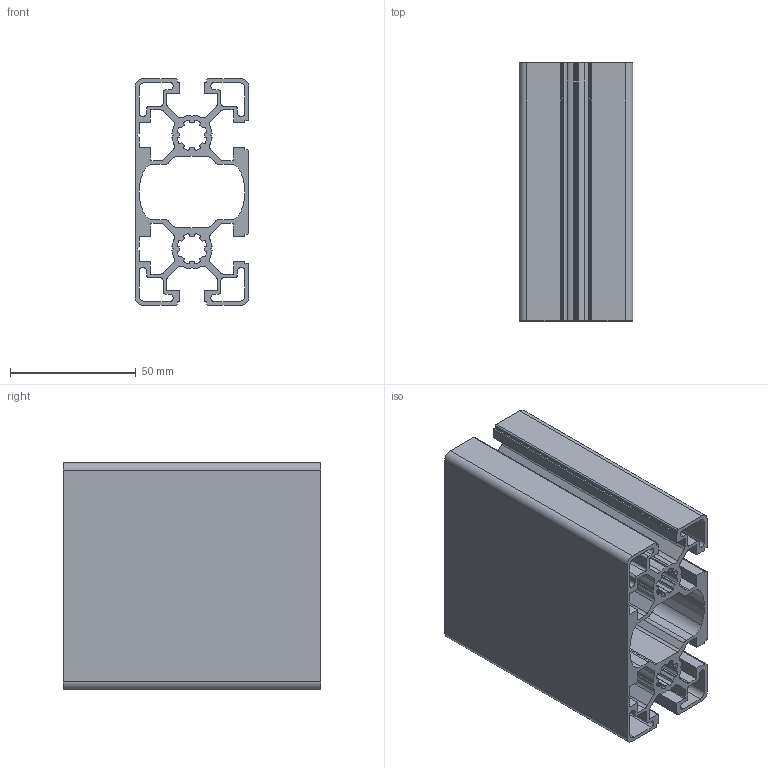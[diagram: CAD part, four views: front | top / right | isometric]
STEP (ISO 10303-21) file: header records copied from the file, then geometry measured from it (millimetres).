
FILE_DESCRIPTION( ( 'Unknown' ), '1' );
FILE_NAME( 'Z:/DB/Serie1/8004-B10-4590L4ND-2017-07-24/Vorlagen/B10-4590L4ND.stp', 'Unknown', ( 'Unknown' ), ( 'Unknown' ), 'XStep 1.0', 'Unknown', ' ' );
FILE_SCHEMA( ( 'automotive_design' ) );
Length unit declared in the file: millimetre
Products named in the file (1): 1
Bounding box: 45 x 102.33 x 90 mm (x, y, z)
Volume: 112657 mm3; surface area: 102571.5 mm2
Topology: 1 solids, 1 shells, 402 faces, 1200 edges, 800 vertices
Faces by surface type: cylinder 242, plane 160
Entity records: 16976 total; most frequent: DIRECTION 2490, CARTESIAN_POINT 2403, ORIENTED_EDGE 2400, EDGE_CURVE 1200, AXIS2_PLACEMENT_3D 887, VERTEX_POINT 800, LINE 716, VECTOR 716
